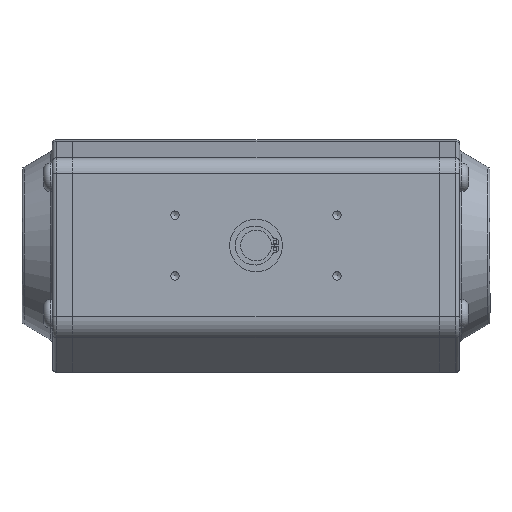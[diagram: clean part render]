
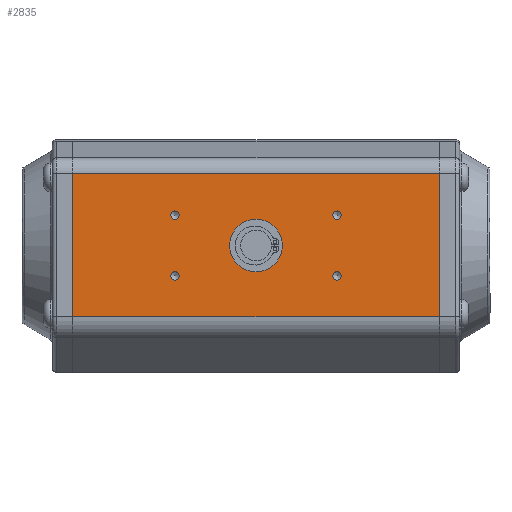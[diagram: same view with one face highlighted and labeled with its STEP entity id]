
A CAD part, top view. The second image highlights one B-rep face of the part: STEP entity #2835.
In plain terms, the highlighted planar face has unit normal (0, 0, 1) as drawn and (0, 1, 0) by its records, which use the part's own axes.
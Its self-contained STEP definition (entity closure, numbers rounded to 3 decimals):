
#2835 = ADVANCED_FACE( '', ( #6268, #6269, #6270, #6271, #6272, #6273 ), #6274, .T. );
#6268 = FACE_OUTER_BOUND( '', #14965, .T. );
#6269 = FACE_BOUND( '', #14966, .T. );
#6270 = FACE_BOUND( '', #14967, .T. );
#6271 = FACE_BOUND( '', #14968, .T. );
#6272 = FACE_BOUND( '', #14969, .T. );
#6273 = FACE_BOUND( '', #14970, .T. );
#6274 = PLANE( '', #14971 );
#14965 = EDGE_LOOP( '', ( #30164, #30165, #30166, #30167 ) );
#14966 = EDGE_LOOP( '', ( #30168 ) );
#14967 = EDGE_LOOP( '', ( #30169 ) );
#14968 = EDGE_LOOP( '', ( #30170 ) );
#14969 = EDGE_LOOP( '', ( #30171 ) );
#14970 = EDGE_LOOP( '', ( #30172 ) );
#14971 = AXIS2_PLACEMENT_3D( '', #30173, #30174, #30175 );
#30164 = ORIENTED_EDGE( '', *, *, #38969, .T. );
#30165 = ORIENTED_EDGE( '', *, *, #39537, .F. );
#30166 = ORIENTED_EDGE( '', *, *, #38452, .T. );
#30167 = ORIENTED_EDGE( '', *, *, #39221, .T. );
#30168 = ORIENTED_EDGE( '', *, *, #39488, .T. );
#30169 = ORIENTED_EDGE( '', *, *, #40292, .T. );
#30170 = ORIENTED_EDGE( '', *, *, #40475, .T. );
#30171 = ORIENTED_EDGE( '', *, *, #40476, .T. );
#30172 = ORIENTED_EDGE( '', *, *, #40477, .T. );
#30173 = CARTESIAN_POINT( '', ( -35.486, 56.07, 0. ) );
#30174 = DIRECTION( '', ( 0., 1., 0. ) );
#30175 = DIRECTION( '', ( 1., 0., 0. ) );
#38452 = EDGE_CURVE( '', #43254, #43252, #43255, .T. );
#38969 = EDGE_CURVE( '', #44176, #44174, #44177, .T. );
#39221 = EDGE_CURVE( '', #43252, #44176, #44609, .T. );
#39488 = EDGE_CURVE( '', #45059, #45059, #45060, .T. );
#39537 = EDGE_CURVE( '', #43254, #44174, #45134, .T. );
#40292 = EDGE_CURVE( '', #46300, #46300, #46301, .T. );
#40475 = EDGE_CURVE( '', #46573, #46573, #46574, .T. );
#40476 = EDGE_CURVE( '', #46575, #46575, #46576, .T. );
#40477 = EDGE_CURVE( '', #46577, #46577, #46578, .T. );
#43252 = VERTEX_POINT( '', #50815 );
#43254 = VERTEX_POINT( '', #50817 );
#43255 = LINE( '', #50818, #50819 );
#44174 = VERTEX_POINT( '', #53687 );
#44176 = VERTEX_POINT( '', #53689 );
#44177 = LINE( '', #53690, #53691 );
#44609 = LINE( '', #55054, #55055 );
#45059 = VERTEX_POINT( '', #56474 );
#45060 = CIRCLE( '', #56475, 9. );
#45134 = LINE( '', #56739, #56740 );
#46300 = VERTEX_POINT( '', #60151 );
#46301 = CIRCLE( '', #60152, 2.067 );
#46573 = VERTEX_POINT( '', #60814 );
#46574 = CIRCLE( '', #60815, 2.067 );
#46575 = VERTEX_POINT( '', #60816 );
#46576 = CIRCLE( '', #60817, 2.067 );
#46577 = VERTEX_POINT( '', #60818 );
#46578 = CIRCLE( '', #60819, 2.067 );
#50815 = CARTESIAN_POINT( '', ( -35.486, 56.07, 0. ) );
#50817 = CARTESIAN_POINT( '', ( 35.125, 56.07, 0. ) );
#50818 = CARTESIAN_POINT( '', ( 35.125, 56.07, 0. ) );
#50819 = VECTOR( '', #67605, 1000. );
#53687 = CARTESIAN_POINT( '', ( 35.125, 56.07, 181. ) );
#53689 = CARTESIAN_POINT( '', ( -35.486, 56.07, 181. ) );
#53690 = CARTESIAN_POINT( '', ( -35.486, 56.07, 181. ) );
#53691 = VECTOR( '', #67988, 1000. );
#55054 = CARTESIAN_POINT( '', ( -35.486, 56.07, 0. ) );
#55055 = VECTOR( '', #68186, 1000. );
#56474 = CARTESIAN_POINT( '', ( -8.997, 56.07, 90.5 ) );
#56475 = AXIS2_PLACEMENT_3D( '', #68358, #68359, #68360 );
#56739 = CARTESIAN_POINT( '', ( 35.125, 56.07, 0. ) );
#56740 = VECTOR( '', #68415, 1000. );
#60151 = CARTESIAN_POINT( '', ( 17.07, 56.07, 130.5 ) );
#60152 = AXIS2_PLACEMENT_3D( '', #68921, #68922, #68923 );
#60814 = CARTESIAN_POINT( '', ( -12.93, 56.07, 50.5 ) );
#60815 = AXIS2_PLACEMENT_3D( '', #69048, #69049, #69050 );
#60816 = CARTESIAN_POINT( '', ( 17.07, 56.07, 50.5 ) );
#60817 = AXIS2_PLACEMENT_3D( '', #69051, #69052, #69053 );
#60818 = CARTESIAN_POINT( '', ( -12.93, 56.07, 130.5 ) );
#60819 = AXIS2_PLACEMENT_3D( '', #69054, #69055, #69056 );
#67605 = DIRECTION( '', ( -1., 0., 0. ) );
#67988 = DIRECTION( '', ( 1., 0., 0. ) );
#68186 = DIRECTION( '', ( 0., 0., 1. ) );
#68358 = CARTESIAN_POINT( '', ( 0.003, 56.07, 90.5 ) );
#68359 = DIRECTION( '', ( 0., -1., 0. ) );
#68360 = DIRECTION( '', ( -1., 0., 0. ) );
#68415 = DIRECTION( '', ( 0., 0., 1. ) );
#68921 = CARTESIAN_POINT( '', ( 15.003, 56.07, 130.5 ) );
#68922 = DIRECTION( '', ( 0., -1., 0. ) );
#68923 = DIRECTION( '', ( 1., 0., 0. ) );
#69048 = CARTESIAN_POINT( '', ( -14.997, 56.07, 50.5 ) );
#69049 = DIRECTION( '', ( 0., -1., 0. ) );
#69050 = DIRECTION( '', ( 1., 0., 0. ) );
#69051 = CARTESIAN_POINT( '', ( 15.003, 56.07, 50.5 ) );
#69052 = DIRECTION( '', ( 0., -1., 0. ) );
#69053 = DIRECTION( '', ( 1., 0., 0. ) );
#69054 = CARTESIAN_POINT( '', ( -14.997, 56.07, 130.5 ) );
#69055 = DIRECTION( '', ( 0., -1., 0. ) );
#69056 = DIRECTION( '', ( 1., 0., 0. ) );
